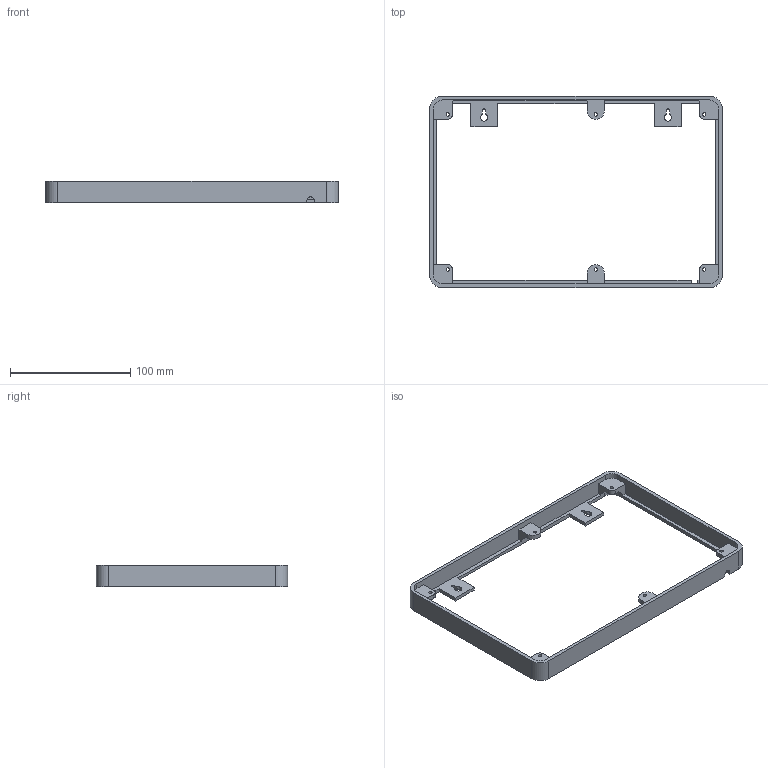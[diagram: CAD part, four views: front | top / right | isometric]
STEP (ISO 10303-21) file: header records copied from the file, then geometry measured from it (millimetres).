
FILE_DESCRIPTION(('FreeCAD Model'),'2;1');
FILE_NAME('Open CASCADE Shape Model','2025-11-21T22:09:56',(''),(''), 'Open CASCADE STEP processor 7.9','FreeCAD','Unknown');
FILE_SCHEMA(('AUTOMOTIVE_DESIGN { 1 0 10303 214 1 1 1 1 }'));
Length unit declared in the file: millimetre
Products named in the file (1): landscape
Bounding box: 242.8 x 158.7 x 18 mm (x, y, z)
Volume: 60626.2 mm3; surface area: 41057.2 mm2
Topology: 1 solids, 1 shells, 103 faces, 300 edges, 198 vertices
Faces by surface type: plane 70, cylinder 29, cone 4
Full cylindrical faces by diameter (mm): 2.8 x6
Entity records: 3450 total; most frequent: CARTESIAN_POINT 602, ORIENTED_EDGE 600, DIRECTION 574, EDGE_CURVE 300, LINE 234, VECTOR 234, VERTEX_POINT 198, AXIS2_PLACEMENT_3D 170
